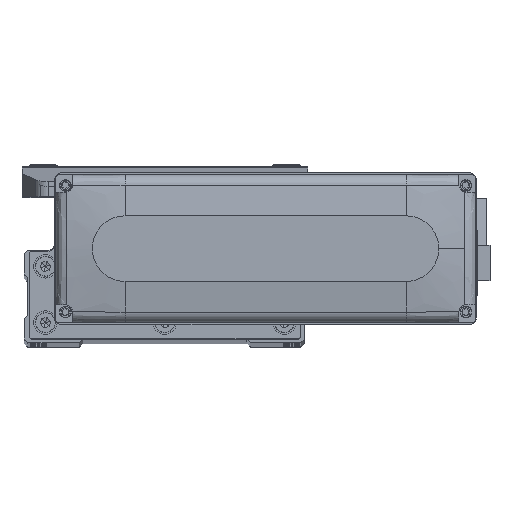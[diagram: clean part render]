
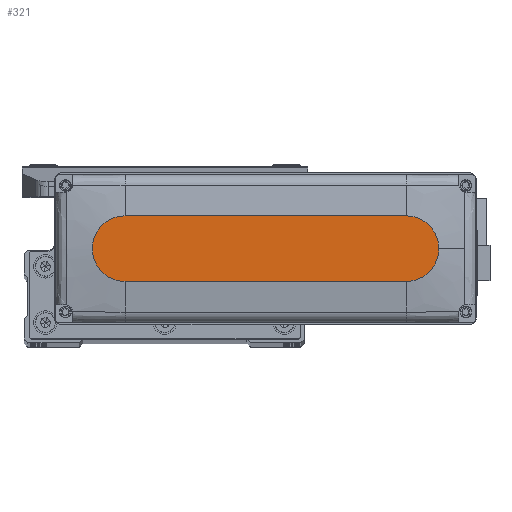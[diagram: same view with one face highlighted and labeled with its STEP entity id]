
A CAD part, top view. The second image highlights one B-rep face of the part: STEP entity #321.
In plain terms, the highlighted planar face has unit normal (0, 0, 1).
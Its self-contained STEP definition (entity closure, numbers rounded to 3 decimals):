
#214 = CIRCLE ( 'NONE', #27377, 14. ) ;
#321 = ADVANCED_FACE ( 'NONE', ( #37452 ), #4189, .T. ) ;
#534 = DIRECTION ( 'NONE',  ( 1., 0., 0. ) ) ;
#687 = DIRECTION ( 'NONE',  ( -1., 0., 0. ) ) ;
#841 = EDGE_CURVE ( 'NONE', #45470, #19421, #37648, .T. ) ;
#1203 = DIRECTION ( 'NONE',  ( 0., 0., 1. ) ) ;
#1684 = ORIENTED_EDGE ( 'NONE', *, *, #16191, .T. ) ;
#2863 = CARTESIAN_POINT ( 'NONE',  ( -60., -14., 28.5 ) ) ;
#3911 = EDGE_CURVE ( 'NONE', #35258, #23623, #19170, .T. ) ;
#4189 = PLANE ( 'NONE',  #29915 ) ;
#4942 = DIRECTION ( 'NONE',  ( 0., 0., 1. ) ) ;
#9520 = CIRCLE ( 'NONE', #36628, 14. ) ;
#12081 = DIRECTION ( 'NONE',  ( 1., 0., 0. ) ) ;
#13833 = CARTESIAN_POINT ( 'NONE',  ( 74., 0., 28.5 ) ) ;
#13899 = DIRECTION ( 'NONE',  ( 1., 0., 0. ) ) ;
#14698 = CARTESIAN_POINT ( 'NONE',  ( -60., 14., 28.5 ) ) ;
#15429 = ORIENTED_EDGE ( 'NONE', *, *, #841, .T. ) ;
#15827 = VECTOR ( 'NONE', #687, 1000. ) ;
#16045 = DIRECTION ( 'NONE',  ( 1., 0., 0. ) ) ;
#16191 = EDGE_CURVE ( 'NONE', #30202, #45470, #32338, .T. ) ;
#16983 = ORIENTED_EDGE ( 'NONE', *, *, #42564, .T. ) ;
#19012 = CARTESIAN_POINT ( 'NONE',  ( 0., 0., 28.5 ) ) ;
#19170 = LINE ( 'NONE', #33964, #15827 ) ;
#19421 = VERTEX_POINT ( 'NONE', #13833 ) ;
#19750 = DIRECTION ( 'NONE',  ( 1., 0., 0. ) ) ;
#23623 = VERTEX_POINT ( 'NONE', #14698 ) ;
#27377 = AXIS2_PLACEMENT_3D ( 'NONE', #38197, #4942, #19750 ) ;
#27943 = EDGE_LOOP ( 'NONE', ( #35481, #46234, #1684, #15429, #16983 ) ) ;
#29915 = AXIS2_PLACEMENT_3D ( 'NONE', #19012, #33808, #534 ) ;
#30202 = VERTEX_POINT ( 'NONE', #2863 ) ;
#30501 = CARTESIAN_POINT ( 'NONE',  ( -60., 0., 28.5 ) ) ;
#32338 = LINE ( 'NONE', #47180, #33165 ) ;
#33165 = VECTOR ( 'NONE', #13899, 1000. ) ;
#33312 = EDGE_CURVE ( 'NONE', #23623, #30202, #9520, .T. ) ;
#33808 = DIRECTION ( 'NONE',  ( 0., 0., 1. ) ) ;
#33964 = CARTESIAN_POINT ( 'NONE',  ( -60., 14., 28.5 ) ) ;
#34476 = CARTESIAN_POINT ( 'NONE',  ( 60., 0., 28.5 ) ) ;
#35258 = VERTEX_POINT ( 'NONE', #41256 ) ;
#35481 = ORIENTED_EDGE ( 'NONE', *, *, #3911, .T. ) ;
#36628 = AXIS2_PLACEMENT_3D ( 'NONE', #30501, #45344, #12081 ) ;
#37452 = FACE_OUTER_BOUND ( 'NONE', #27943, .T. ) ;
#37648 = CIRCLE ( 'NONE', #37684, 14. ) ;
#37684 = AXIS2_PLACEMENT_3D ( 'NONE', #34476, #1203, #16045 ) ;
#38197 = CARTESIAN_POINT ( 'NONE',  ( 60., 0., 28.5 ) ) ;
#41256 = CARTESIAN_POINT ( 'NONE',  ( 60., 14., 28.5 ) ) ;
#42564 = EDGE_CURVE ( 'NONE', #19421, #35258, #214, .T. ) ;
#44314 = CARTESIAN_POINT ( 'NONE',  ( 60., -14., 28.5 ) ) ;
#45344 = DIRECTION ( 'NONE',  ( 0., 0., 1. ) ) ;
#45470 = VERTEX_POINT ( 'NONE', #44314 ) ;
#46234 = ORIENTED_EDGE ( 'NONE', *, *, #33312, .T. ) ;
#47180 = CARTESIAN_POINT ( 'NONE',  ( -60., -14., 28.5 ) ) ;
